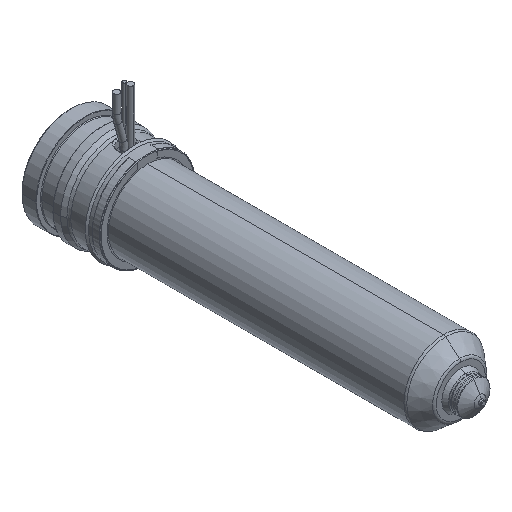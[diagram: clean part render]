
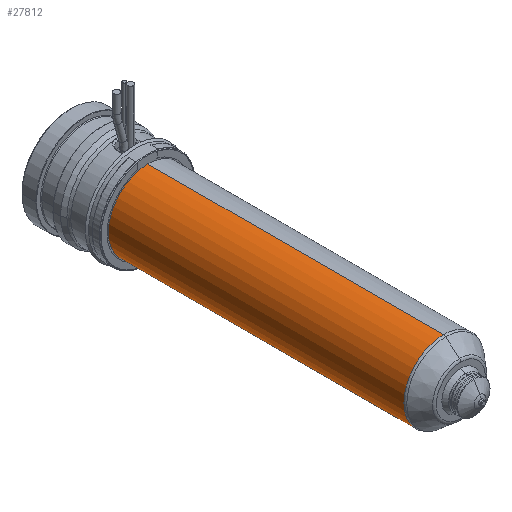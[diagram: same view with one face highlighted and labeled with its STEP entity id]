
A CAD part, isometric view. The second image highlights one B-rep face of the part: STEP entity #27812.
In plain terms, the highlighted cylindrical face has radius 12 mm (diameter 24 mm), a partial arc.
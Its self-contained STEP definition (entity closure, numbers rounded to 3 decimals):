
#27203=CARTESIAN_POINT('',(0.,-113.736,0.));
#27204=DIRECTION('',(0.,-1.,0.));
#27205=DIRECTION('',(0.,0.,1.));
#27206=AXIS2_PLACEMENT_3D('',#27203,#27204,#27205);
#27211=CARTESIAN_POINT('',(0.,-24.,0.));
#27212=DIRECTION('',(0.,1.,0.));
#27213=DIRECTION('',(0.,0.,-1.));
#27214=AXIS2_PLACEMENT_3D('',#27211,#27212,#27213);
#27219=DIRECTION('',(0.,1.,0.));
#27220=VECTOR('',#27219,89.736);
#27221=CARTESIAN_POINT('',(0.,-113.736,12.));
#27222=LINE('',#27221,#27220);
#27234=DIRECTION('',(0.,1.,0.));
#27235=VECTOR('',#27234,89.736);
#27236=CARTESIAN_POINT('',(0.,-113.736,-12.));
#27237=LINE('',#27236,#27235);
#27417=CARTESIAN_POINT('',(0.,-113.736,12.));
#27418=CARTESIAN_POINT('',(0.,-24.,12.));
#27419=VERTEX_POINT('',#27417);
#27420=VERTEX_POINT('',#27418);
#27421=CARTESIAN_POINT('',(0.,-113.736,-12.));
#27422=CARTESIAN_POINT('',(0.,-24.,-12.));
#27423=VERTEX_POINT('',#27421);
#27424=VERTEX_POINT('',#27422);
#27798=CARTESIAN_POINT('',(0.,-14.7,0.));
#27799=DIRECTION('',(0.,-1.,0.));
#27800=DIRECTION('',(0.,0.,1.));
#27801=AXIS2_PLACEMENT_3D('',#27798,#27799,#27800);
#27802=CYLINDRICAL_SURFACE('',#27801,12.);
#27804=ORIENTED_EDGE('',*,*,#27803,.F.);
#27805=ORIENTED_EDGE('',*,*,#27793,.T.);
#27807=ORIENTED_EDGE('',*,*,#27806,.T.);
#27809=ORIENTED_EDGE('',*,*,#27808,.T.);
#27810=EDGE_LOOP('',(#27804,#27805,#27807,#27809));
#27811=FACE_OUTER_BOUND('',#27810,.F.);
#27812=ADVANCED_FACE('',(#27811),#27802,.T.);
#27207=CIRCLE('',#27206,12.);
#27215=CIRCLE('',#27214,12.);
#27793=EDGE_CURVE('',#27419,#27423,#27207,.T.);
#27803=EDGE_CURVE('',#27419,#27420,#27222,.T.);
#27806=EDGE_CURVE('',#27423,#27424,#27237,.T.);
#27808=EDGE_CURVE('',#27424,#27420,#27215,.T.);
